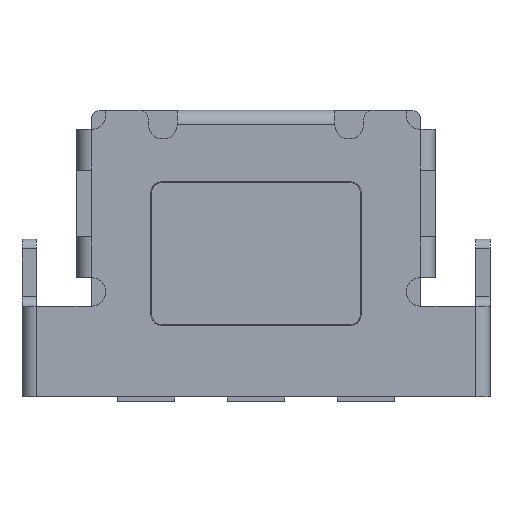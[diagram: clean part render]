
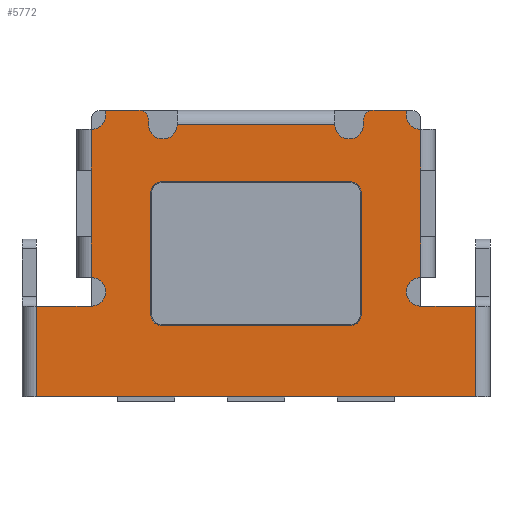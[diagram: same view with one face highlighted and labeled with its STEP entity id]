
A CAD part, front view. The second image highlights one B-rep face of the part: STEP entity #5772.
In plain terms, the highlighted planar face has unit normal (0, -1, 0).
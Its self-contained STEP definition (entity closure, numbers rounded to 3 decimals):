
#3776=CARTESIAN_POINT('',(1.225,-0.15,1.4));
#3777=DIRECTION('',(0.,-1.,0.));
#3778=DIRECTION('',(0.,0.,1.));
#3779=AXIS2_PLACEMENT_3D('',#3776,#3777,#3778);
#3781=DIRECTION('',(-1.,0.,0.));
#3782=VECTOR('',#3781,0.359);
#3783=CARTESIAN_POINT('',(1.584,-0.15,1.5));
#3784=LINE('',#3783,#3782);
#3785=CARTESIAN_POINT('',(1.725,-0.15,1.45));
#3786=DIRECTION('',(0.,-1.,0.));
#3787=DIRECTION('',(-0.943,0.,0.333));
#3788=AXIS2_PLACEMENT_3D('',#3785,#3786,#3787);
#3790=CARTESIAN_POINT('',(1.725,-0.15,-0.4));
#3791=DIRECTION('',(0.,1.,0.));
#3792=DIRECTION('',(0.,0.,-1.));
#3793=AXIS2_PLACEMENT_3D('',#3790,#3791,#3792);
#3795=DIRECTION('',(-1.,0.,0.));
#3796=VECTOR('',#3795,0.575);
#3797=CARTESIAN_POINT('',(2.3,-0.15,-0.55));
#3798=LINE('',#3797,#3796);
#3799=DIRECTION('',(1.,0.,0.));
#3800=VECTOR('',#3799,4.6);
#3801=CARTESIAN_POINT('',(-2.3,-0.15,-1.5));
#3802=LINE('',#3801,#3800);
#3803=DIRECTION('',(-1.,0.,0.));
#3804=VECTOR('',#3803,0.575);
#3805=CARTESIAN_POINT('',(-1.725,-0.15,-0.55));
#3806=LINE('',#3805,#3804);
#3807=CARTESIAN_POINT('',(-1.725,-0.15,-0.4));
#3808=DIRECTION('',(0.,-1.,0.));
#3809=DIRECTION('',(0.,0.,-1.));
#3810=AXIS2_PLACEMENT_3D('',#3807,#3808,#3809);
#3812=CARTESIAN_POINT('',(-1.725,-0.15,1.45));
#3813=DIRECTION('',(0.,1.,0.));
#3814=DIRECTION('',(0.943,0.,0.333));
#3815=AXIS2_PLACEMENT_3D('',#3812,#3813,#3814);
#3817=DIRECTION('',(-1.,0.,0.));
#3818=VECTOR('',#3817,0.359);
#3819=CARTESIAN_POINT('',(-1.225,-0.15,1.5));
#3820=LINE('',#3819,#3818);
#3821=CARTESIAN_POINT('',(-1.225,-0.15,1.4));
#3822=DIRECTION('',(0.,-1.,0.));
#3823=DIRECTION('',(1.,0.,0.));
#3824=AXIS2_PLACEMENT_3D('',#3821,#3822,#3823);
#3826=DIRECTION('',(0.,0.,-1.));
#3827=VECTOR('',#3826,0.05);
#3828=CARTESIAN_POINT('',(-1.125,-0.15,1.4));
#3829=LINE('',#3828,#3827);
#3830=CARTESIAN_POINT('',(-0.975,-0.15,1.35));
#3831=DIRECTION('',(0.,-1.,0.));
#3832=DIRECTION('',(-1.,0.,0.));
#3833=AXIS2_PLACEMENT_3D('',#3830,#3831,#3832);
#3835=CARTESIAN_POINT('',(0.975,-0.15,1.35));
#3836=DIRECTION('',(0.,1.,0.));
#3837=DIRECTION('',(1.,0.,0.));
#3838=AXIS2_PLACEMENT_3D('',#3835,#3836,#3837);
#3840=DIRECTION('',(0.,0.,-1.));
#3841=VECTOR('',#3840,0.05);
#3842=CARTESIAN_POINT('',(1.125,-0.15,1.4));
#3843=LINE('',#3842,#3841);
#3844=DIRECTION('',(0.,0.,-1.));
#3845=VECTOR('',#3844,1.3);
#3846=CARTESIAN_POINT('',(1.1,-0.15,0.65));
#3847=LINE('',#3846,#3845);
#3848=DIRECTION('',(1.,0.,0.));
#3849=VECTOR('',#3848,2.);
#3850=CARTESIAN_POINT('',(-1.,-0.15,0.75));
#3851=LINE('',#3850,#3849);
#3852=DIRECTION('',(0.,0.,1.));
#3853=VECTOR('',#3852,1.3);
#3854=CARTESIAN_POINT('',(-1.1,-0.15,-0.65));
#3855=LINE('',#3854,#3853);
#3856=DIRECTION('',(-1.,0.,0.));
#3857=VECTOR('',#3856,2.);
#3858=CARTESIAN_POINT('',(1.,-0.15,-0.75));
#3859=LINE('',#3858,#3857);
#4000=DIRECTION('',(0.,0.,-1.));
#4001=VECTOR('',#4000,0.7);
#4002=CARTESIAN_POINT('',(1.725,-0.15,0.875));
#4003=LINE('',#4002,#4001);
#4024=DIRECTION('',(0.,0.,-1.));
#4025=VECTOR('',#4024,0.425);
#4026=CARTESIAN_POINT('',(1.725,-0.15,0.175));
#4027=LINE('',#4026,#4025);
#4042=DIRECTION('',(0.,0.,-1.));
#4043=VECTOR('',#4042,0.425);
#4044=CARTESIAN_POINT('',(1.725,-0.15,1.3));
#4045=LINE('',#4044,#4043);
#4085=DIRECTION('',(0.,0.,-1.));
#4086=VECTOR('',#4085,0.95);
#4087=CARTESIAN_POINT('',(2.3,-0.15,-0.55));
#4088=LINE('',#4087,#4086);
#4449=DIRECTION('',(0.,0.,1.));
#4450=VECTOR('',#4449,0.95);
#4451=CARTESIAN_POINT('',(-2.3,-0.15,-1.5));
#4452=LINE('',#4451,#4450);
#4810=DIRECTION('',(0.,0.,1.));
#4811=VECTOR('',#4810,0.425);
#4812=CARTESIAN_POINT('',(-1.725,-0.15,0.875));
#4813=LINE('',#4812,#4811);
#4828=DIRECTION('',(0.,0.,1.));
#4829=VECTOR('',#4828,0.425);
#4830=CARTESIAN_POINT('',(-1.725,-0.15,-0.25));
#4831=LINE('',#4830,#4829);
#4882=DIRECTION('',(0.,0.,1.));
#4883=VECTOR('',#4882,0.7);
#4884=CARTESIAN_POINT('',(-1.725,-0.15,0.175));
#4885=LINE('',#4884,#4883);
#4996=DIRECTION('',(1.,0.,0.));
#4997=VECTOR('',#4996,1.65);
#4998=CARTESIAN_POINT('',(-0.825,-0.15,1.35));
#4999=LINE('',#4998,#4997);
#5013=CARTESIAN_POINT('',(1.,-0.15,-0.65));
#5014=DIRECTION('',(0.,1.,0.));
#5015=DIRECTION('',(1.,0.,0.));
#5016=AXIS2_PLACEMENT_3D('',#5013,#5014,#5015);
#5031=CARTESIAN_POINT('',(-1.,-0.15,-0.65));
#5032=DIRECTION('',(0.,1.,0.));
#5033=DIRECTION('',(0.,0.,-1.));
#5034=AXIS2_PLACEMENT_3D('',#5031,#5032,#5033);
#5049=CARTESIAN_POINT('',(-1.,-0.15,0.65));
#5050=DIRECTION('',(0.,1.,0.));
#5051=DIRECTION('',(-1.,0.,0.));
#5052=AXIS2_PLACEMENT_3D('',#5049,#5050,#5051);
#5067=CARTESIAN_POINT('',(1.,-0.15,0.65));
#5068=DIRECTION('',(0.,1.,0.));
#5069=DIRECTION('',(0.,0.,1.));
#5070=AXIS2_PLACEMENT_3D('',#5067,#5068,#5069);
#5076=CARTESIAN_POINT('',(-2.3,-0.15,-1.5));
#5077=CARTESIAN_POINT('',(2.3,-0.15,-1.5));
#5078=VERTEX_POINT('',#5076);
#5079=VERTEX_POINT('',#5077);
#5108=CARTESIAN_POINT('',(1.125,-0.15,1.35));
#5109=CARTESIAN_POINT('',(0.825,-0.15,1.35));
#5110=VERTEX_POINT('',#5108);
#5111=VERTEX_POINT('',#5109);
#5114=CARTESIAN_POINT('',(-1.125,-0.15,1.35));
#5115=CARTESIAN_POINT('',(-0.825,-0.15,1.35));
#5116=VERTEX_POINT('',#5114);
#5117=VERTEX_POINT('',#5115);
#5122=CARTESIAN_POINT('',(1.725,-0.15,-0.55));
#5123=CARTESIAN_POINT('',(1.725,-0.15,-0.25));
#5124=VERTEX_POINT('',#5122);
#5125=VERTEX_POINT('',#5123);
#5126=CARTESIAN_POINT('',(2.3,-0.15,-0.55));
#5127=VERTEX_POINT('',#5126);
#5132=CARTESIAN_POINT('',(1.584,-0.15,1.5));
#5133=CARTESIAN_POINT('',(1.725,-0.15,1.3));
#5134=VERTEX_POINT('',#5132);
#5135=VERTEX_POINT('',#5133);
#5140=CARTESIAN_POINT('',(-1.584,-0.15,1.5));
#5141=CARTESIAN_POINT('',(-1.725,-0.15,1.3));
#5142=VERTEX_POINT('',#5140);
#5143=VERTEX_POINT('',#5141);
#5148=CARTESIAN_POINT('',(-1.725,-0.15,-0.55));
#5149=CARTESIAN_POINT('',(-1.725,-0.15,-0.25));
#5150=VERTEX_POINT('',#5148);
#5151=VERTEX_POINT('',#5149);
#5154=CARTESIAN_POINT('',(-2.3,-0.15,-0.55));
#5155=VERTEX_POINT('',#5154);
#5180=CARTESIAN_POINT('',(1.725,-0.15,0.175));
#5181=VERTEX_POINT('',#5180);
#5182=CARTESIAN_POINT('',(1.725,-0.15,0.875));
#5183=VERTEX_POINT('',#5182);
#5208=CARTESIAN_POINT('',(-1.725,-0.15,0.875));
#5209=VERTEX_POINT('',#5208);
#5210=CARTESIAN_POINT('',(-1.725,-0.15,0.175));
#5211=VERTEX_POINT('',#5210);
#5448=CARTESIAN_POINT('',(1.225,-0.15,1.5));
#5449=CARTESIAN_POINT('',(1.125,-0.15,1.4));
#5450=VERTEX_POINT('',#5448);
#5451=VERTEX_POINT('',#5449);
#5460=CARTESIAN_POINT('',(-1.125,-0.15,1.4));
#5461=VERTEX_POINT('',#5460);
#5462=CARTESIAN_POINT('',(-1.225,-0.15,1.5));
#5463=VERTEX_POINT('',#5462);
#5465=CARTESIAN_POINT('',(1.,-0.15,-0.75));
#5467=VERTEX_POINT('',#5465);
#5469=CARTESIAN_POINT('',(1.1,-0.15,-0.65));
#5471=VERTEX_POINT('',#5469);
#5473=CARTESIAN_POINT('',(1.1,-0.15,0.65));
#5475=VERTEX_POINT('',#5473);
#5477=CARTESIAN_POINT('',(1.,-0.15,0.75));
#5479=VERTEX_POINT('',#5477);
#5481=CARTESIAN_POINT('',(-1.,-0.15,0.75));
#5483=VERTEX_POINT('',#5481);
#5485=CARTESIAN_POINT('',(-1.1,-0.15,0.65));
#5487=VERTEX_POINT('',#5485);
#5489=CARTESIAN_POINT('',(-1.1,-0.15,-0.65));
#5491=VERTEX_POINT('',#5489);
#5493=CARTESIAN_POINT('',(-1.,-0.15,-0.75));
#5495=VERTEX_POINT('',#5493);
#5701=CARTESIAN_POINT('',(0.,-0.15,0.));
#5702=DIRECTION('',(0.,-1.,0.));
#5703=DIRECTION('',(-1.,0.,0.));
#5704=AXIS2_PLACEMENT_3D('',#5701,#5702,#5703);
#5705=PLANE('',#5704);
#5706=ORIENTED_EDGE('',*,*,#5691,.F.);
#5708=ORIENTED_EDGE('',*,*,#5707,.F.);
#5710=ORIENTED_EDGE('',*,*,#5709,.T.);
#5712=ORIENTED_EDGE('',*,*,#5711,.T.);
#5714=ORIENTED_EDGE('',*,*,#5713,.T.);
#5716=ORIENTED_EDGE('',*,*,#5715,.T.);
#5718=ORIENTED_EDGE('',*,*,#5717,.F.);
#5720=ORIENTED_EDGE('',*,*,#5719,.F.);
#5722=ORIENTED_EDGE('',*,*,#5721,.T.);
#5724=ORIENTED_EDGE('',*,*,#5723,.F.);
#5726=ORIENTED_EDGE('',*,*,#5725,.T.);
#5728=ORIENTED_EDGE('',*,*,#5727,.F.);
#5730=ORIENTED_EDGE('',*,*,#5729,.T.);
#5732=ORIENTED_EDGE('',*,*,#5731,.T.);
#5734=ORIENTED_EDGE('',*,*,#5733,.T.);
#5736=ORIENTED_EDGE('',*,*,#5735,.T.);
#5737=ORIENTED_EDGE('',*,*,#5609,.F.);
#5739=ORIENTED_EDGE('',*,*,#5738,.F.);
#5741=ORIENTED_EDGE('',*,*,#5740,.F.);
#5743=ORIENTED_EDGE('',*,*,#5742,.T.);
#5745=ORIENTED_EDGE('',*,*,#5744,.T.);
#5747=ORIENTED_EDGE('',*,*,#5746,.T.);
#5749=ORIENTED_EDGE('',*,*,#5748,.F.);
#5751=ORIENTED_EDGE('',*,*,#5750,.F.);
#5752=EDGE_LOOP('',(#5706,#5708,#5710,#5712,#5714,#5716,#5718,#5720,#5722,#5724,
#5726,#5728,#5730,#5732,#5734,#5736,#5737,#5739,#5741,#5743,#5745,#5747,#5749,
#5751));
#5753=FACE_OUTER_BOUND('',#5752,.F.);
#5755=ORIENTED_EDGE('',*,*,#5754,.F.);
#5757=ORIENTED_EDGE('',*,*,#5756,.F.);
#5759=ORIENTED_EDGE('',*,*,#5758,.F.);
#5761=ORIENTED_EDGE('',*,*,#5760,.F.);
#5763=ORIENTED_EDGE('',*,*,#5762,.F.);
#5765=ORIENTED_EDGE('',*,*,#5764,.F.);
#5767=ORIENTED_EDGE('',*,*,#5766,.F.);
#5769=ORIENTED_EDGE('',*,*,#5768,.F.);
#5770=EDGE_LOOP('',(#5755,#5757,#5759,#5761,#5763,#5765,#5767,#5769));
#5771=FACE_BOUND('',#5770,.F.);
#3780=CIRCLE('',#3779,0.1);
#3789=CIRCLE('',#3788,0.15);
#3794=CIRCLE('',#3793,0.15);
#3811=CIRCLE('',#3810,0.15);
#3816=CIRCLE('',#3815,0.15);
#3825=CIRCLE('',#3824,0.1);
#3834=CIRCLE('',#3833,0.15);
#3839=CIRCLE('',#3838,0.15);
#5017=CIRCLE('',#5016,0.1);
#5035=CIRCLE('',#5034,0.1);
#5053=CIRCLE('',#5052,0.1);
#5071=CIRCLE('',#5070,0.1);
#5609=EDGE_CURVE('',#5142,#5143,#3816,.T.);
#5691=EDGE_CURVE('',#5450,#5451,#3780,.T.);
#5707=EDGE_CURVE('',#5134,#5450,#3784,.T.);
#5709=EDGE_CURVE('',#5134,#5135,#3789,.T.);
#5711=EDGE_CURVE('',#5135,#5183,#4045,.T.);
#5713=EDGE_CURVE('',#5183,#5181,#4003,.T.);
#5715=EDGE_CURVE('',#5181,#5125,#4027,.T.);
#5717=EDGE_CURVE('',#5124,#5125,#3794,.T.);
#5719=EDGE_CURVE('',#5127,#5124,#3798,.T.);
#5721=EDGE_CURVE('',#5127,#5079,#4088,.T.);
#5723=EDGE_CURVE('',#5078,#5079,#3802,.T.);
#5725=EDGE_CURVE('',#5078,#5155,#4452,.T.);
#5727=EDGE_CURVE('',#5150,#5155,#3806,.T.);
#5729=EDGE_CURVE('',#5150,#5151,#3811,.T.);
#5731=EDGE_CURVE('',#5151,#5211,#4831,.T.);
#5733=EDGE_CURVE('',#5211,#5209,#4885,.T.);
#5735=EDGE_CURVE('',#5209,#5143,#4813,.T.);
#5738=EDGE_CURVE('',#5463,#5142,#3820,.T.);
#5740=EDGE_CURVE('',#5461,#5463,#3825,.T.);
#5742=EDGE_CURVE('',#5461,#5116,#3829,.T.);
#5744=EDGE_CURVE('',#5116,#5117,#3834,.T.);
#5746=EDGE_CURVE('',#5117,#5111,#4999,.T.);
#5748=EDGE_CURVE('',#5110,#5111,#3839,.T.);
#5750=EDGE_CURVE('',#5451,#5110,#3843,.T.);
#5754=EDGE_CURVE('',#5475,#5471,#3847,.T.);
#5756=EDGE_CURVE('',#5479,#5475,#5071,.T.);
#5758=EDGE_CURVE('',#5483,#5479,#3851,.T.);
#5760=EDGE_CURVE('',#5487,#5483,#5053,.T.);
#5762=EDGE_CURVE('',#5491,#5487,#3855,.T.);
#5764=EDGE_CURVE('',#5495,#5491,#5035,.T.);
#5766=EDGE_CURVE('',#5467,#5495,#3859,.T.);
#5768=EDGE_CURVE('',#5471,#5467,#5017,.T.);
#5772=ADVANCED_FACE('',(#5753,#5771),#5705,.T.);
